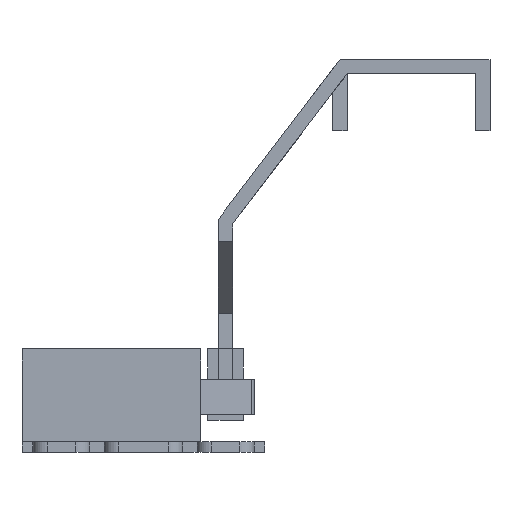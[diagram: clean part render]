
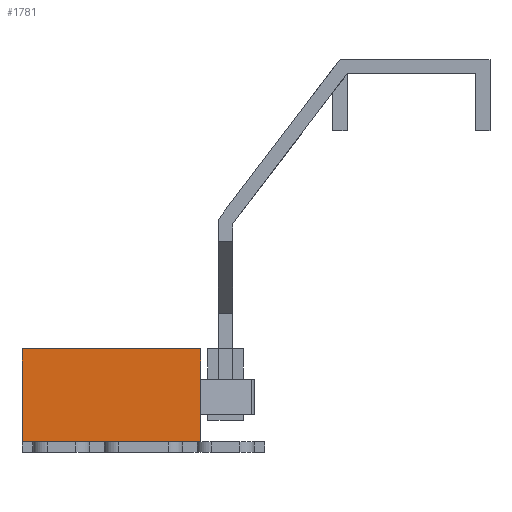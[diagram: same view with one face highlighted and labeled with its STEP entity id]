
A CAD part, left-side view. The second image highlights one B-rep face of the part: STEP entity #1781.
In plain terms, the highlighted planar face has unit normal (-1, 0, 0).
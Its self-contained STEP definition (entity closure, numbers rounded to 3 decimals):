
#1781=ADVANCED_FACE('',(#3240),#3241,.T.);
#3240=FACE_OUTER_BOUND('',#5432,.T.);
#3241=PLANE('',#5433);
#5432=EDGE_LOOP('',(#6681,#6682,#6683,#6684));
#5433=AXIS2_PLACEMENT_3D('',#6685,#6686,#6687);
#6681=ORIENTED_EDGE('',*,*,#9471,.F.);
#6682=ORIENTED_EDGE('',*,*,#9469,.T.);
#6683=ORIENTED_EDGE('',*,*,#9472,.F.);
#6684=ORIENTED_EDGE('',*,*,#9473,.F.);
#6685=CARTESIAN_POINT('',(-250.0,34.0,1.5));
#6686=DIRECTION('',(-1.0,0.0,0.0));
#6687=DIRECTION('',(0.0,-1.0,0.0));
#9469=EDGE_CURVE('',#10881,#10883,#10885,.T.);
#9471=EDGE_CURVE('',#10881,#10887,#10888,.T.);
#9472=EDGE_CURVE('',#10889,#10883,#10890,.T.);
#9473=EDGE_CURVE('',#10887,#10889,#10891,.T.);
#10881=VERTEX_POINT('',#12048);
#10883=VERTEX_POINT('',#12051);
#10885=LINE('',#12054,#12055);
#10887=VERTEX_POINT('',#12057);
#10888=LINE('',#12058,#12059);
#10889=VERTEX_POINT('',#12060);
#10890=LINE('',#12061,#12062);
#10891=LINE('',#12063,#12064);
#12048=CARTESIAN_POINT('',(-250.0,9.0,1.5));
#12051=CARTESIAN_POINT('',(-250.0,9.0,14.5));
#12054=CARTESIAN_POINT('',(-250.0,9.0,1.5));
#12055=VECTOR('',#13487,1.0);
#12057=CARTESIAN_POINT('',(-250.0,34.0,1.5));
#12058=CARTESIAN_POINT('',(-250.0,9.0,1.5));
#12059=VECTOR('',#13488,1.0);
#12060=CARTESIAN_POINT('',(-250.0,34.0,14.5));
#12061=CARTESIAN_POINT('',(-250.0,9.0,14.5));
#12062=VECTOR('',#13489,1.0);
#12063=CARTESIAN_POINT('',(-250.0,34.0,1.5));
#12064=VECTOR('',#13490,1.0);
#13487=DIRECTION('',(0.0,0.0,1.0));
#13488=DIRECTION('',(0.0,1.0,0.0));
#13489=DIRECTION('',(0.0,-1.0,0.0));
#13490=DIRECTION('',(0.0,0.0,1.0));
